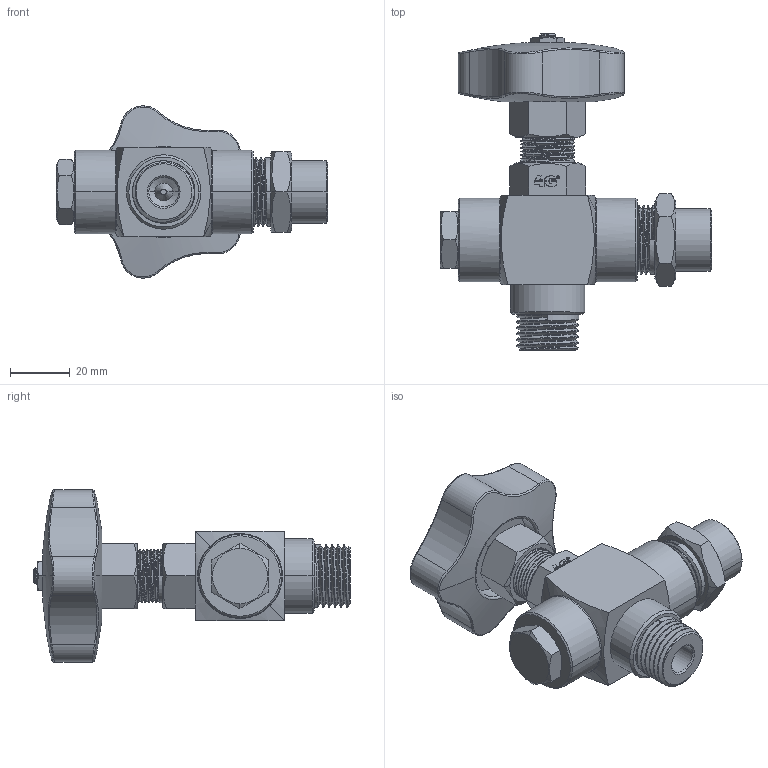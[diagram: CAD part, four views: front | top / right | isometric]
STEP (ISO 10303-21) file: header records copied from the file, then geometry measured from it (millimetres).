
FILE_DESCRIPTION((''),'2;1');
FILE_NAME('PARTE_VUOTA','2023-07-11T15:14:59',('alfio.taboni'),('CDM Tecnoconsulting'),'CREO PARAMETRIC BY PTC INC, 2020053','CREO PARAMETRIC BY PTC INC, 2020053','');
FILE_SCHEMA(('CONFIG_CONTROL_DESIGN','SHAPE_APPEARANCE_LAYERS_GROUPS'));
Products named in the file (1): PARTE_VUOTA
Bounding box: 91 x 106.23 x 57.81 mm (x, y, z)
Volume: 98327.6 mm3; surface area: 37392.4 mm2
Topology: 1 solids, 4 shells, 778 faces, 2033 edges, 1303 vertices
Faces by surface type: plane 266, cylinder 168, bspline 119, extrusion 111, cone 82, torus 28, sphere 4
Entity records: 55919 total; most frequent: CARTESIAN_POINT 32185, ORIENTED_EDGE 4066, DIRECTION 2823, PRESENTATION_STYLE_ASSIGNMENT 2036, STYLED_ITEM 2034, CURVE_STYLE 2033, EDGE_CURVE 2033, VERTEX_POINT 1303
